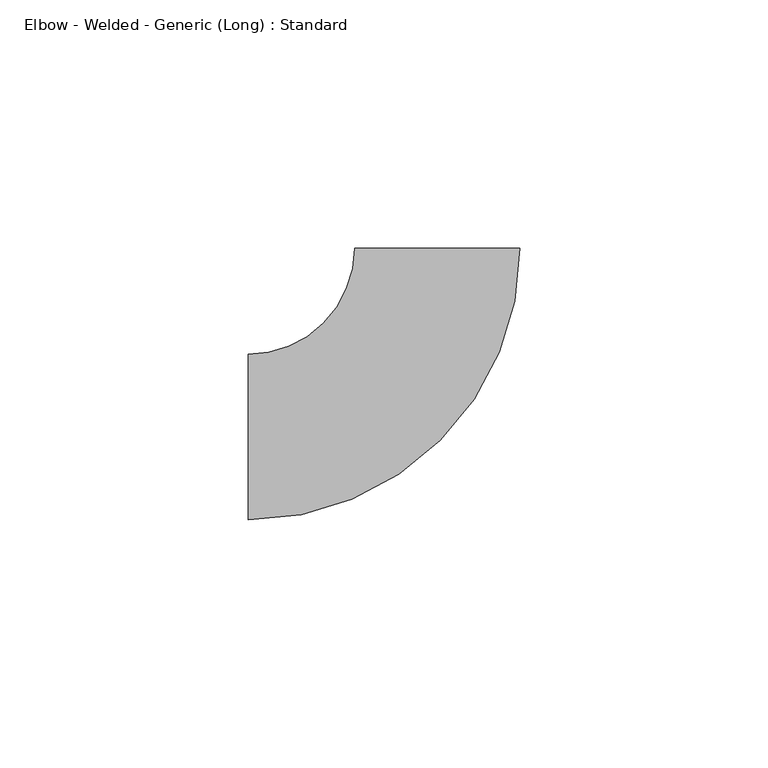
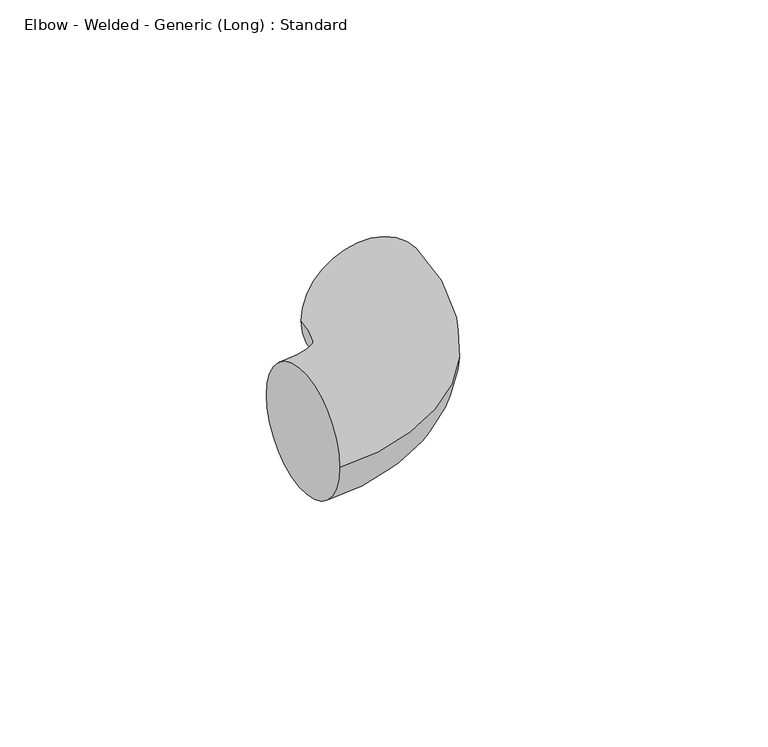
"""IFC4 building model written with IfcOpenShell, lengths in millimetres: pipe fitting geometry, Elbow - Welded - Generic (Long) : Standard."""

from ifc_helpers import new_model, si_unit, point, frame, origin, place, context, project, spatial, circle_curve, ellipse_curve, trimmed, source, transform, mapped, element, save
from ifc_brep_helpers import plane_surface, revolved_surface, advanced_brep


def elbow_welded_generic_long_standard_9c1f2bd1(model_context):
    return source(origin(), model_context, "Body", "AdvancedBrep", [
        advanced_brep(
        [(-38.1, -16.66875, 0.0), (-38.1, 16.66875, 0.0), (16.7276224, 38.0741891, 0.0), (-16.6098378, 38.1257199, 0.0)],
        [
            (0, 1, circle_curve(frame((-38.1, 0.0, 0.0), z_axis=(-1.0, 0.0, 0.0), x_axis=(0.0, 1.0, 0.0)), 16.66875)),
            (1, 0, circle_curve(frame((-38.1, 0.0, 0.0), z_axis=(-1.0, 0.0, 0.0), x_axis=(0.0, 1.0, 0.0)), 16.66875)),
            (2, 3, circle_curve(frame((0.0588923, 38.0999545, 0.0), z_axis=(0.0015457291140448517, 0.9999988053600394, 0.0), x_axis=(-0.9999988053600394, 0.0015457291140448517, 0.0)), 16.66875)),
            (3, 2, circle_curve(frame((0.0588923, 38.0999545, 0.0), z_axis=(0.0015457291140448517, 0.9999988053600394, 0.0), x_axis=(-0.9999988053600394, 0.0015457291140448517, 0.0)), 16.66875)),
            (3, 1, circle_curve(frame((-38.1, 38.1589379, 0.0), z_axis=(0.0, 0.0, -1.0), x_axis=(0.0, -1.0, 0.0)), 21.4901879)),
            (0, 2, circle_curve(frame((-38.1, 38.1589379, 0.0), z_axis=(0.0, 0.0, 1.0), x_axis=(0.0, -1.0, 0.0)), 54.8276879)),
        ],
        [
            plane_surface(frame((-38.1, 0.0, 0.0), z_axis=(-1.0, 0.0, 0.0), x_axis=(0.0, 0.0, 1.0))),
            plane_surface(frame((0.0588923, 38.0999545, 0.0), z_axis=(0.0015457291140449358, 0.9999988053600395, 0.0), x_axis=(0.0, 0.0, 1.0))),
            revolved_surface(trimmed(ellipse_curve(frame((-38.1, 0.0, 0.0), z_axis=(-1.0, 0.0, 0.0), x_axis=(0.0, 1.0, 0.0)), 16.66875, 16.66875), [point((-38.1, -16.66875, 0.0))], [point((-38.1, 16.66875, 0.0))], True, "CARTESIAN"), (-38.1, 38.1589379, 0.0), (0.0, 0.0, 1.0)),
            revolved_surface(trimmed(ellipse_curve(frame((-38.1, 0.0, 0.0), z_axis=(-1.0, 0.0, 0.0), x_axis=(0.0, 1.0, 0.0)), 16.66875, 16.66875), [point((-38.1, 16.66875, 0.0))], [point((-38.1, -16.66875, 0.0))], True, "CARTESIAN"), (-38.1, 38.1589379, 0.0), (0.0, 0.0, 1.0)),
        ],
        [
            (0, [[1, 2]]),
            (1, [[3, 4]]),
            (2, [[5, -1, 6, -4]]),
            (3, [[-6, -2, -5, -3]]),
        ],
    ),
    ])


if __name__ == "__main__":
    model = new_model("IFC4")
    model_context = context("Model", 3, world=origin())
    ifc_project = project(units=[si_unit("LENGTHUNIT", "METRE", prefix="MILLI")], contexts=[model_context])
    site = spatial("IfcSite", under=ifc_project)
    building = spatial("IfcBuilding", under=site)
    placement = place(None, origin())
    elbow_welded_generic_long_standard_shape = elbow_welded_generic_long_standard_9c1f2bd1(model_context)
    element("IfcPipeFitting", 1, ObjectType="Elbow - Welded - Generic (Long) : Standard", at=placement, inside=building, context=model_context, shape_type="MappedRepresentation", body=[
        mapped(elbow_welded_generic_long_standard_shape, transform((0.0, 0.0, 0.0), x_axis=(1.0, 0.0, 0.0), y_axis=(0.0, 1.0, 0.0), z_axis=(0.0, 0.0, 1.0))),
    ])
    save(model, "model.ifc")
